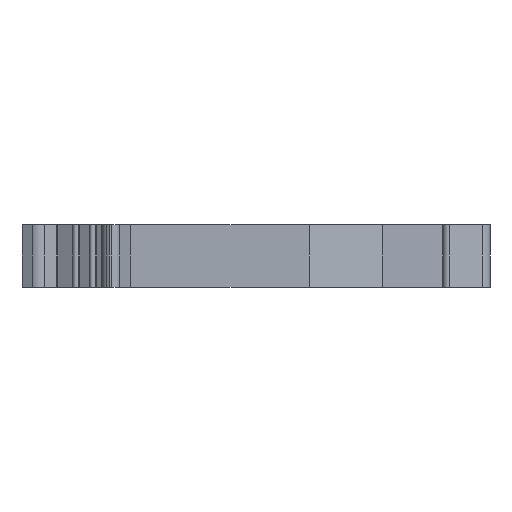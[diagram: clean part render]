
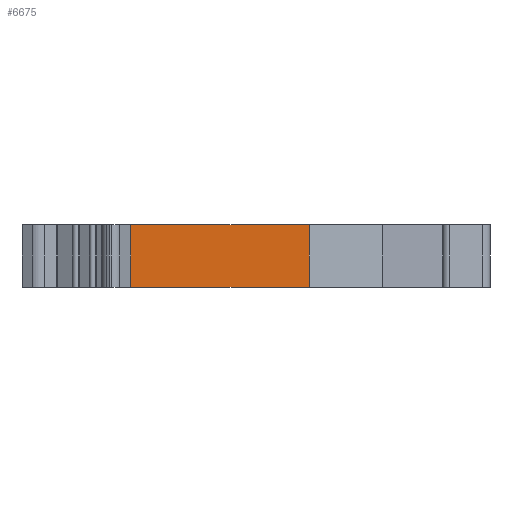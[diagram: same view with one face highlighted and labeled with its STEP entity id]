
A CAD part, left-side view. The second image highlights one B-rep face of the part: STEP entity #6675.
In plain terms, the highlighted planar face has unit normal (-1, 0, 0).
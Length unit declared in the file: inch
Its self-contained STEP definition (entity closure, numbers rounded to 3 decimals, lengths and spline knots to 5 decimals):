
#98=DIRECTION('',(0.,-1.,0.));
#99=VECTOR('',#98,17.6);
#100=CARTESIAN_POINT('',(1074.69492,621.63625,0.));
#101=LINE('',#100,#99);
#1080=DIRECTION('',(0.,0.,1.));
#1081=VECTOR('',#1080,6.2);
#1082=CARTESIAN_POINT('',(1074.69492,604.03625,0.));
#1083=LINE('',#1082,#1081);
#1084=DIRECTION('',(0.,0.,1.));
#1085=VECTOR('',#1084,6.2);
#1086=CARTESIAN_POINT('',(1074.69492,621.63625,0.));
#1087=LINE('',#1086,#1085);
#1686=DIRECTION('',(0.,-1.,0.));
#1687=VECTOR('',#1686,17.6);
#1688=CARTESIAN_POINT('',(1074.69492,621.63625,6.2));
#1689=LINE('',#1688,#1687);
#3593=CARTESIAN_POINT('',(1074.69492,621.63625,0.));
#3594=VERTEX_POINT('',#3593);
#3595=CARTESIAN_POINT('',(1074.69492,604.03625,0.));
#3596=VERTEX_POINT('',#3595);
#3877=CARTESIAN_POINT('',(1074.69492,621.63625,6.2));
#3878=VERTEX_POINT('',#3877);
#3879=CARTESIAN_POINT('',(1074.69492,604.03625,6.2));
#3880=VERTEX_POINT('',#3879);
#6662=CARTESIAN_POINT('',(1074.69492,621.63625,0.));
#6663=DIRECTION('',(-1.,0.,0.));
#6664=DIRECTION('',(0.,-1.,0.));
#6665=AXIS2_PLACEMENT_3D('',#6662,#6663,#6664);
#6666=PLANE('',#6665);
#6667=ORIENTED_EDGE('',*,*,#4754,.F.);
#6669=ORIENTED_EDGE('',*,*,#6668,.T.);
#6671=ORIENTED_EDGE('',*,*,#6670,.T.);
#6672=ORIENTED_EDGE('',*,*,#6654,.F.);
#6673=EDGE_LOOP('',(#6667,#6669,#6671,#6672));
#6674=FACE_OUTER_BOUND('',#6673,.F.);
#6675=ADVANCED_FACE('',(#6674),#6666,.T.);
#4754=EDGE_CURVE('',#3594,#3596,#101,.T.);
#6654=EDGE_CURVE('',#3596,#3880,#1083,.T.);
#6668=EDGE_CURVE('',#3594,#3878,#1087,.T.);
#6670=EDGE_CURVE('',#3878,#3880,#1689,.T.);
